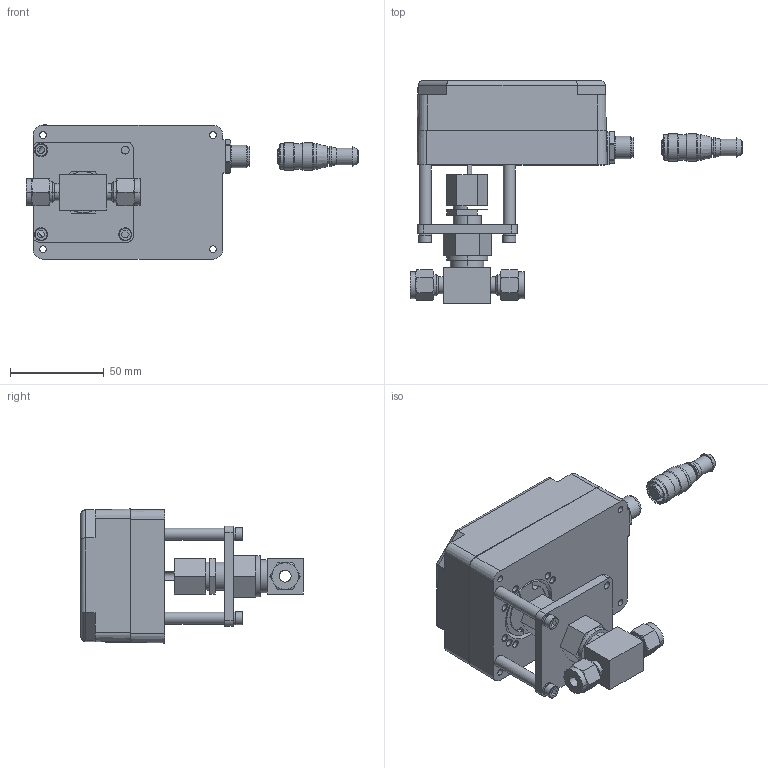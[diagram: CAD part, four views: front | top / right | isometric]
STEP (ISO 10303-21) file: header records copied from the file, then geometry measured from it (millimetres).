
FILE_DESCRIPTION (( 'STEP AP203' ), '1' );
FILE_NAME ('#M-Series Assembly w. 31RS4 (Client Copy).STEP', '2020-09-02T14:45:02', ( 'Technician #5' ), ( '' ), 'SwSTEP 2.0', 'SolidWorks 2020', '' );
FILE_SCHEMA (( 'CONFIG_CONTROL_DESIGN' ));
Length unit declared in the file: inch
Products named in the file (1): #M-Series Assembly w. 31RS4 (Client Copy)
Bounding box: 177.14 x 118.73 x 71.52 mm (x, y, z)
Surface area: 58720.4 mm2 (no closed solid volume)
Topology: 0 solids, 15 shells, 306 faces, 1047 edges, 769 vertices
Faces by surface type: plane 117, cylinder 108, cone 75, bspline 5, torus 1
Full cylindrical faces by diameter (mm): 3.568 x8, 3.569 x7, 4.216 x1, 4.914 x4, 5.41 x1, 6.35 x3, 6.858 x3, 6.985 x3, 8 x1, 8.3 x1, 8.8 x1, 10.5 x1, 10.8 x1, 11.15 x1, 12 x1, 12.3 x1, 13.7 x3, 14.5 x2, 31.75 x1
Entity records: 14663 total; most frequent: CARTESIAN_POINT 6725, ORIENTED_EDGE 1465, DIRECTION 1425, EDGE_CURVE 932, VERTEX_POINT 731, AXIS2_PLACEMENT_3D 569, EDGE_LOOP 453, B_SPLINE_CURVE_WITH_KNOTS 364
